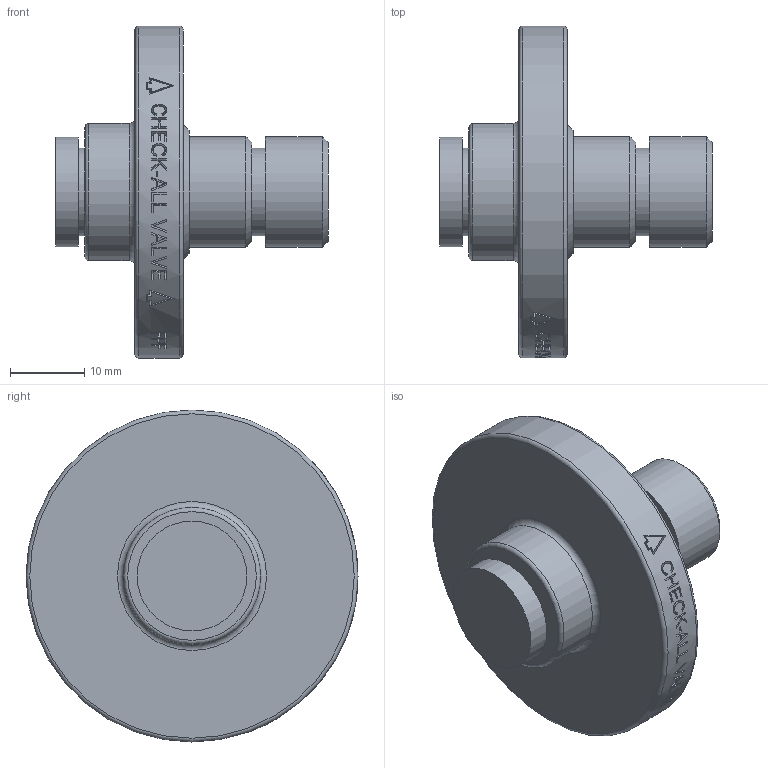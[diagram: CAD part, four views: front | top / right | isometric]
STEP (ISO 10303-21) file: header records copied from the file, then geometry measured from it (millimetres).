
FILE_DESCRIPTION( ( 'Unknown' ), '1' );
FILE_NAME( 'Y:/ENGR/3D Solid Edge Models/FP/FP STEP/FPF.stp', 'Unknown', ( 'Unknown' ), ( 'Unknown' ), 'PSStep 14.0', 'Unknown', ' ' );
FILE_SCHEMA( ( 'AUTOMOTIVE_DESIGN { 1 0 10303 214 1 1 1 1 }' ) );
Length unit declared in the file: millimetre
Products named in the file (1): 1
Bounding box: 36.6 x 44.58 x 44.58 mm (x, y, z)
Volume: 15751 mm3; surface area: 5852.1 mm2
Topology: 1 solids, 1 shells, 215 faces, 540 edges, 358 vertices
Faces by surface type: plane 134, bspline 43, cylinder 31, torus 4, cone 3
Full cylindrical faces by diameter (mm): 11.786 x2, 14.732 x1, 14.859 x2, 18.415 x1, 44.577 x1
Entity records: 9276 total; most frequent: CARTESIAN_POINT 3539, ORIENTED_EDGE 1052, EDGE_CURVE 526, B_SPLINE_CURVE_WITH_KNOTS 504, DIRECTION 390, VERTEX_POINT 358, EDGE_LOOP 260, FACE_OUTER_BOUND 226
